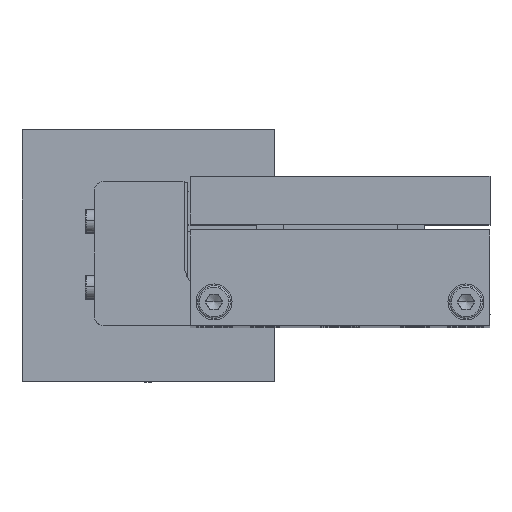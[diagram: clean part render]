
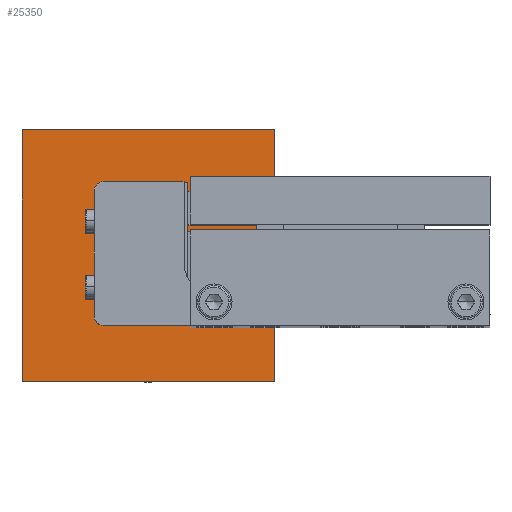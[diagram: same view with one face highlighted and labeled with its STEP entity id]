
A CAD part, top view. The second image highlights one B-rep face of the part: STEP entity #25350.
In plain terms, the highlighted planar face has unit normal (0, 0, 1).
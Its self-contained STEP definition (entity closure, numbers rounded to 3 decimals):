
#4755 = CARTESIAN_POINT ( 'NONE',  ( -13.5, 23., -7. ) ) ;
#4851 = CARTESIAN_POINT ( 'NONE',  ( -13.5, 1.3, -7. ) ) ;
#4852 = DIRECTION ( 'NONE',  ( 0., 1., 0. ) ) ;
#4853 = DIRECTION ( 'NONE',  ( 0., 0., 1. ) ) ;
#4854 = AXIS2_PLACEMENT_3D ( 'NONE', #4860, #4853, #4852 ) ;
#4855 = CIRCLE ( 'NONE', #4854, 1. ) ;
#4860 = CARTESIAN_POINT ( 'NONE',  ( -13.5, 2.3, -7. ) ) ;
#4886 = CARTESIAN_POINT ( 'NONE',  ( -14.5, 2.3, -7. ) ) ;
#4887 = DIRECTION ( 'NONE',  ( 0., -1., 0. ) ) ;
#4888 = VECTOR ( 'NONE', #4887, 1000. ) ;
#4889 = CARTESIAN_POINT ( 'NONE',  ( -14.5, 12., -7. ) ) ;
#4890 = LINE ( 'NONE', #4889, #4888 ) ;
#4901 = CARTESIAN_POINT ( 'NONE',  ( -14.5, 22., -7. ) ) ;
#4902 = DIRECTION ( 'NONE',  ( 0., 1., 0. ) ) ;
#4903 = DIRECTION ( 'NONE',  ( 0., 0., 1. ) ) ;
#4904 = CARTESIAN_POINT ( 'NONE',  ( -13.5, 22., -7. ) ) ;
#4905 = AXIS2_PLACEMENT_3D ( 'NONE', #4904, #4903, #4902 ) ;
#4906 = CIRCLE ( 'NONE', #4905, 1. ) ;
#4937 = DIRECTION ( 'NONE',  ( -1., 0., 0. ) ) ;
#4938 = VECTOR ( 'NONE', #4937, 1000. ) ;
#4939 = CARTESIAN_POINT ( 'NONE',  ( -7., 23., -7. ) ) ;
#4940 = LINE ( 'NONE', #4939, #4938 ) ;
#4941 = LINE ( 'NONE', #4995, #4994 ) ;
#4948 = DIRECTION ( 'NONE',  ( 0., -1., 0. ) ) ;
#4949 = VECTOR ( 'NONE', #4948, 1000. ) ;
#4950 = CARTESIAN_POINT ( 'NONE',  ( 14., 12., -7. ) ) ;
#4951 = LINE ( 'NONE', #4950, #4949 ) ;
#4952 = CARTESIAN_POINT ( 'NONE',  ( 14., 0., -7. ) ) ;
#4957 = CARTESIAN_POINT ( 'NONE',  ( 14., 16., -7. ) ) ;
#4958 = DIRECTION ( 'NONE',  ( 0., -1., 0. ) ) ;
#4959 = VECTOR ( 'NONE', #4958, 1000. ) ;
#4960 = CARTESIAN_POINT ( 'NONE',  ( 14., 12., -7. ) ) ;
#4961 = LINE ( 'NONE', #4960, #4959 ) ;
#4993 = DIRECTION ( 'NONE',  ( 1., 0., 0. ) ) ;
#4994 = VECTOR ( 'NONE', #4993, 1000. ) ;
#4995 = CARTESIAN_POINT ( 'NONE',  ( -7., 1.3, -7. ) ) ;
#9083 = DIRECTION ( 'NONE',  ( -1., 0., 0. ) ) ;
#9084 = VECTOR ( 'NONE', #9083, 1000. ) ;
#9085 = CARTESIAN_POINT ( 'NONE',  ( -7., 16., -7. ) ) ;
#9086 = LINE ( 'NONE', #9085, #9084 ) ;
#9427 = CARTESIAN_POINT ( 'NONE',  ( 0., 0., -7. ) ) ;
#9428 = DIRECTION ( 'NONE',  ( 0., -1., 0. ) ) ;
#9429 = VECTOR ( 'NONE', #9428, 1000. ) ;
#9430 = CARTESIAN_POINT ( 'NONE',  ( 0., 12., -7. ) ) ;
#9431 = LINE ( 'NONE', #9430, #9429 ) ;
#9502 = DIRECTION ( 'NONE',  ( -1., 0., 0. ) ) ;
#9503 = DIRECTION ( 'NONE',  ( 0., 0., -1. ) ) ;
#9504 = CARTESIAN_POINT ( 'NONE',  ( -7., 12., -7. ) ) ;
#9505 = AXIS2_PLACEMENT_3D ( 'NONE', #9504, #9503, #9502 ) ;
#9506 = PLANE ( 'NONE',  #9505 ) ;
#9507 = FACE_OUTER_BOUND ( 'NONE', #25351, .T. ) ;
#9508 = DIRECTION ( 'NONE',  ( 1., 0., 0. ) ) ;
#9509 = VECTOR ( 'NONE', #9508, 1000. ) ;
#9510 = CARTESIAN_POINT ( 'NONE',  ( 50., 0., -7. ) ) ;
#9511 = LINE ( 'NONE', #9510, #9509 ) ;
#23462 = VERTEX_POINT ( 'NONE', #4755 ) ;
#23514 = EDGE_CURVE ( 'NONE', #23531, #23515, #4855, .T. ) ;
#23515 = VERTEX_POINT ( 'NONE', #4851 ) ;
#23523 = EDGE_CURVE ( 'NONE', #23462, #23524, #4906, .T. ) ;
#23524 = VERTEX_POINT ( 'NONE', #4901 ) ;
#23530 = EDGE_CURVE ( 'NONE', #23524, #23531, #4890, .T. ) ;
#23531 = VERTEX_POINT ( 'NONE', #4886 ) ;
#23541 = EDGE_CURVE ( 'NONE', #29990, #23462, #4940, .T. ) ;
#23566 = EDGE_CURVE ( 'NONE', #29924, #23567, #4961, .T. ) ;
#23567 = VERTEX_POINT ( 'NONE', #4957 ) ;
#23570 = VERTEX_POINT ( 'NONE', #4952 ) ;
#23572 = EDGE_CURVE ( 'NONE', #23570, #29963, #4951, .T. ) ;
#23578 = EDGE_CURVE ( 'NONE', #23515, #30004, #4941, .T. ) ;
#25038 = EDGE_CURVE ( 'NONE', #23567, #29987, #9086, .T. ) ;
#25272 = ORIENTED_EDGE ( 'NONE', *, *, #23530, .F. ) ;
#25273 = ORIENTED_EDGE ( 'NONE', *, *, #23523, .F. ) ;
#25281 = EDGE_CURVE ( 'NONE', #29834, #25282, #9431, .T. ) ;
#25282 = VERTEX_POINT ( 'NONE', #9427 ) ;
#25323 = ORIENTED_EDGE ( 'NONE', *, *, #29833, .T. ) ;
#25336 = ORIENTED_EDGE ( 'NONE', *, *, #23541, .F. ) ;
#25337 = ORIENTED_EDGE ( 'NONE', *, *, #29989, .F. ) ;
#25338 = ORIENTED_EDGE ( 'NONE', *, *, #25038, .F. ) ;
#25339 = ORIENTED_EDGE ( 'NONE', *, *, #23566, .F. ) ;
#25340 = ORIENTED_EDGE ( 'NONE', *, *, #29923, .F. ) ;
#25341 = ORIENTED_EDGE ( 'NONE', *, *, #29955, .F. ) ;
#25342 = ORIENTED_EDGE ( 'NONE', *, *, #29965, .F. ) ;
#25343 = ORIENTED_EDGE ( 'NONE', *, *, #23572, .F. ) ;
#25344 = ORIENTED_EDGE ( 'NONE', *, *, #25345, .F. ) ;
#25345 = EDGE_CURVE ( 'NONE', #25282, #23570, #9511, .T. ) ;
#25346 = ORIENTED_EDGE ( 'NONE', *, *, #25281, .F. ) ;
#25350 = ADVANCED_FACE ( 'NONE', ( #9507 ), #9506, .F. ) ;
#25351 = EDGE_LOOP ( 'NONE', ( #25352, #25353, #25354, #25272, #25273, #25336, #25337, #25338, #25339, #25340, #25341, #25342, #25343, #25344, #25346, #25323 ) ) ;
#25352 = ORIENTED_EDGE ( 'NONE', *, *, #30006, .T. ) ;
#25353 = ORIENTED_EDGE ( 'NONE', *, *, #23578, .F. ) ;
#25354 = ORIENTED_EDGE ( 'NONE', *, *, #23514, .F. ) ;
#29833 = EDGE_CURVE ( 'NONE', #29834, #29835, #32800, .T. ) ;
#29834 = VERTEX_POINT ( 'NONE', #32796 ) ;
#29835 = VERTEX_POINT ( 'NONE', #32795 ) ;
#29884 = VERTEX_POINT ( 'NONE', #32854 ) ;
#29923 = EDGE_CURVE ( 'NONE', #29956, #29924, #32928, .T. ) ;
#29924 = VERTEX_POINT ( 'NONE', #32924 ) ;
#29955 = EDGE_CURVE ( 'NONE', #29884, #29956, #32961, .T. ) ;
#29956 = VERTEX_POINT ( 'NONE', #32957 ) ;
#29963 = VERTEX_POINT ( 'NONE', #32952 ) ;
#29965 = EDGE_CURVE ( 'NONE', #29963, #29884, #32951, .T. ) ;
#29987 = VERTEX_POINT ( 'NONE', #32989 ) ;
#29989 = EDGE_CURVE ( 'NONE', #29987, #29990, #32988, .T. ) ;
#29990 = VERTEX_POINT ( 'NONE', #32984 ) ;
#30004 = VERTEX_POINT ( 'NONE', #32975 ) ;
#30006 = EDGE_CURVE ( 'NONE', #29835, #30004, #32974, .T. ) ;
#32795 = CARTESIAN_POINT ( 'NONE',  ( -0.5, 1.5, -7. ) ) ;
#32796 = CARTESIAN_POINT ( 'NONE',  ( 0., 1.5, -7. ) ) ;
#32797 = DIRECTION ( 'NONE',  ( -1., 0., 0. ) ) ;
#32798 = VECTOR ( 'NONE', #32797, 1000. ) ;
#32799 = CARTESIAN_POINT ( 'NONE',  ( 0., 1.5, -7. ) ) ;
#32800 = LINE ( 'NONE', #32799, #32798 ) ;
#32854 = CARTESIAN_POINT ( 'NONE',  ( -28., -9., -7. ) ) ;
#32924 = CARTESIAN_POINT ( 'NONE',  ( 14., 33., -7. ) ) ;
#32925 = DIRECTION ( 'NONE',  ( 1., 0., 0. ) ) ;
#32926 = VECTOR ( 'NONE', #32925, 1000. ) ;
#32927 = CARTESIAN_POINT ( 'NONE',  ( -7., 33., -7. ) ) ;
#32928 = LINE ( 'NONE', #32927, #32926 ) ;
#32948 = DIRECTION ( 'NONE',  ( -1., 0., 0. ) ) ;
#32949 = VECTOR ( 'NONE', #32948, 1000. ) ;
#32950 = CARTESIAN_POINT ( 'NONE',  ( -7., -9., -7. ) ) ;
#32951 = LINE ( 'NONE', #32950, #32949 ) ;
#32952 = CARTESIAN_POINT ( 'NONE',  ( 14., -9., -7. ) ) ;
#32957 = CARTESIAN_POINT ( 'NONE',  ( -28., 33., -7. ) ) ;
#32958 = DIRECTION ( 'NONE',  ( 0., 1., 0. ) ) ;
#32959 = VECTOR ( 'NONE', #32958, 1000. ) ;
#32960 = CARTESIAN_POINT ( 'NONE',  ( -28., 12., -7. ) ) ;
#32961 = LINE ( 'NONE', #32960, #32959 ) ;
#32971 = DIRECTION ( 'NONE',  ( 0., -1., 0. ) ) ;
#32972 = VECTOR ( 'NONE', #32971, 1000. ) ;
#32973 = CARTESIAN_POINT ( 'NONE',  ( -0.5, 24., -7. ) ) ;
#32974 = LINE ( 'NONE', #32973, #32972 ) ;
#32975 = CARTESIAN_POINT ( 'NONE',  ( -0.5, 1.3, -7. ) ) ;
#32984 = CARTESIAN_POINT ( 'NONE',  ( -0.5, 23., -7. ) ) ;
#32985 = DIRECTION ( 'NONE',  ( 0., 1., 0. ) ) ;
#32986 = VECTOR ( 'NONE', #32985, 1000. ) ;
#32987 = CARTESIAN_POINT ( 'NONE',  ( -0.5, 12., -7. ) ) ;
#32988 = LINE ( 'NONE', #32987, #32986 ) ;
#32989 = CARTESIAN_POINT ( 'NONE',  ( -0.5, 16., -7. ) ) ;
